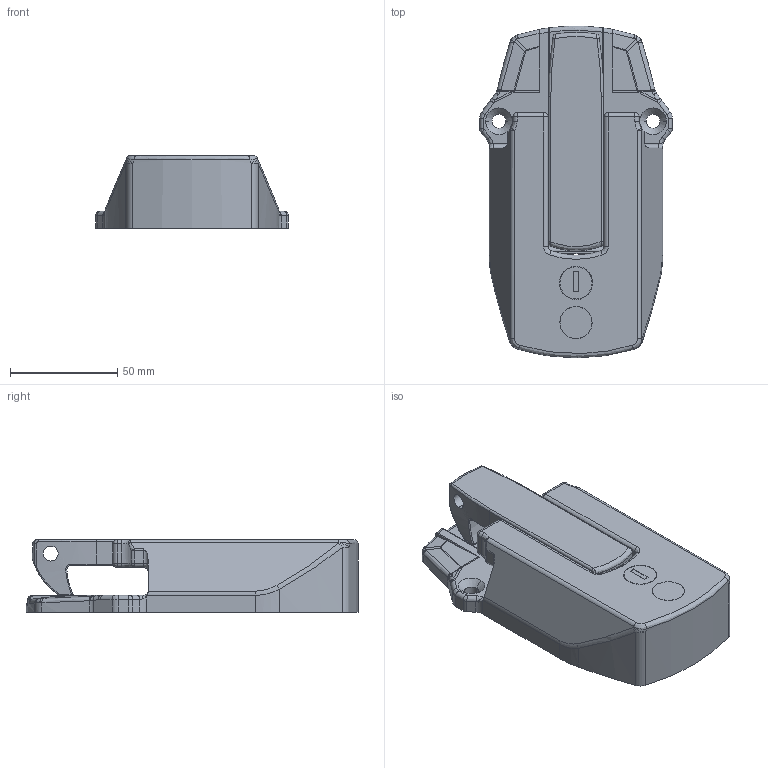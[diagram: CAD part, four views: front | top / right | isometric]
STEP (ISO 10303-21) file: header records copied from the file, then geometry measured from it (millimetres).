
FILE_DESCRIPTION (( 'STEP AP203' ), '1' );
FILE_NAME ('EL-601S.STEP', '2013-12-26T07:38:55', ( 'SDS' ), ( 'SDS' ), 'SwSTEP 2.0', 'SolidWorks 2002296', '' );
FILE_SCHEMA (( 'CONFIG_CONTROL_DESIGN' ));
Length unit declared in the file: millimetre
Products named in the file (16): EL-601S; EL-601S5_蹬怮椔; EL-601S6_蹬怮椔; EL-601S7_蹬怮椔; EL-601S8_蹬怮椔; EL-601S9_蹬怮椔; EL-601S10_蹬怮椔; EL-601S11_蹬怮椔; EL-601S12_蹬怮椔; EL-601S13_蹬怮椔; EL-601S14_蹬怮椔; EL-601S15_蹬怮椔; EL-601S1_蹬怮椔; EL-601S2_蹬怮椔; EL-601S3_蹬怮椔; EL-601S4_蹬怮椔
Assembly tree (15 placements, depth 2):
  EL-601S
    EL-601S8_蹬怮椔
    EL-601S2_蹬怮椔
    EL-601S10_蹬怮椔
    EL-601S7_蹬怮椔
    EL-601S13_蹬怮椔
    EL-601S14_蹬怮椔
    EL-601S9_蹬怮椔
    EL-601S11_蹬怮椔
    EL-601S12_蹬怮椔
    EL-601S15_蹬怮椔
    EL-601S6_蹬怮椔
    EL-601S1_蹬怮椔
    EL-601S5_蹬怮椔
    EL-601S3_蹬怮椔
    EL-601S4_蹬怮椔
Bounding box: 90 x 155 x 34 mm (x, y, z)
Volume: 95652.2 mm3; surface area: 72868.4 mm2
Topology: 14 solids, 17 shells, 1215 faces, 2947 edges, 1780 vertices
Faces by surface type: cylinder 499, plane 346, bspline 320, cone 50
Entity records: 56156 total; most frequent: CARTESIAN_POINT 28521, ORIENTED_EDGE 5856, DIRECTION 4874, EDGE_CURVE 2931, AXIS2_PLACEMENT_3D 1799, VERTEX_POINT 1780, EDGE_LOOP 1277, LINE 1276
